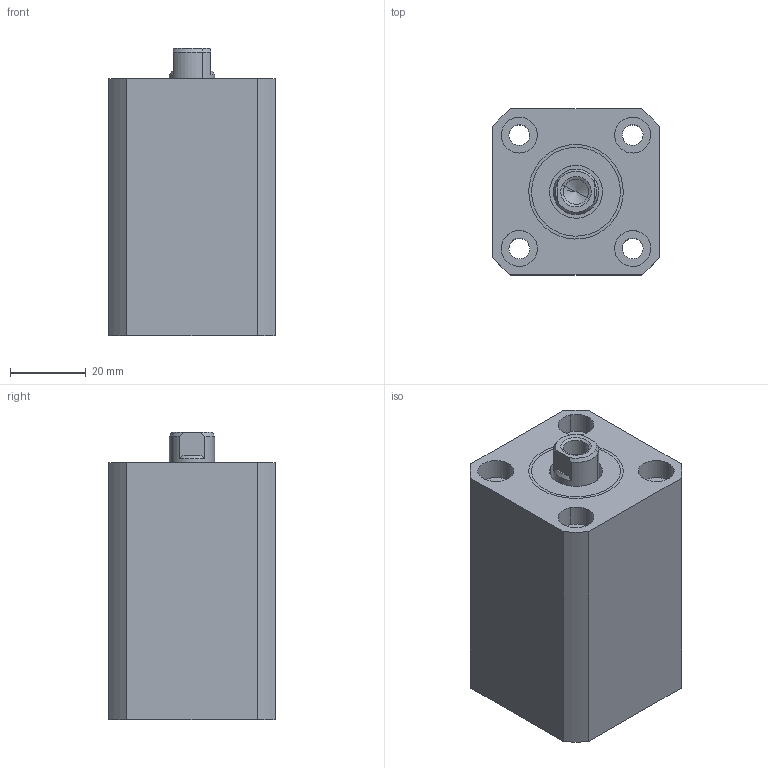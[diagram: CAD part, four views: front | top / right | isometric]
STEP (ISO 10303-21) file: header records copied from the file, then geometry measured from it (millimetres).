
FILE_DESCRIPTION(('CATIA V5 STEP Exchange'),'2;1');
FILE_NAME('\\Kjf-102\kjf_tc\Hydraulic_Clamp\Standard\BLOCK_CLAMP\BDV-20xx\Rev_B\배포도면\BDV-2025_B.stp','2025-03-14T04:53:53+00:00',('none'),('none'),'CATIA Version 5 Release 19 SP 6 (IN-10)','CATIA V5 STEP AP203','none');
FILE_SCHEMA(('CONFIG_CONTROL_DESIGN'));
Length unit declared in the file: millimetre
Products named in the file (1): BDV-20xx_B
Assembly tree (3 placements, depth 2):
  BDV-20xx_B
    #58
    #1356
    #1990
Bounding box: 44 x 44 x 76 mm (x, y, z)
Volume: 105813.6 mm3; surface area: 31092.2 mm2
Topology: 3 solids, 3 shells, 83 faces, 186 edges, 121 vertices
Faces by surface type: cylinder 46, plane 27, cone 10
Entity records: 2213 total; most frequent: CARTESIAN_POINT 399, ORIENTED_EDGE 368, DIRECTION 284, EDGE_CURVE 184, AXIS2_PLACEMENT_3D 158, VERTEX_POINT 121, EDGE_LOOP 107, CIRCLE 104
